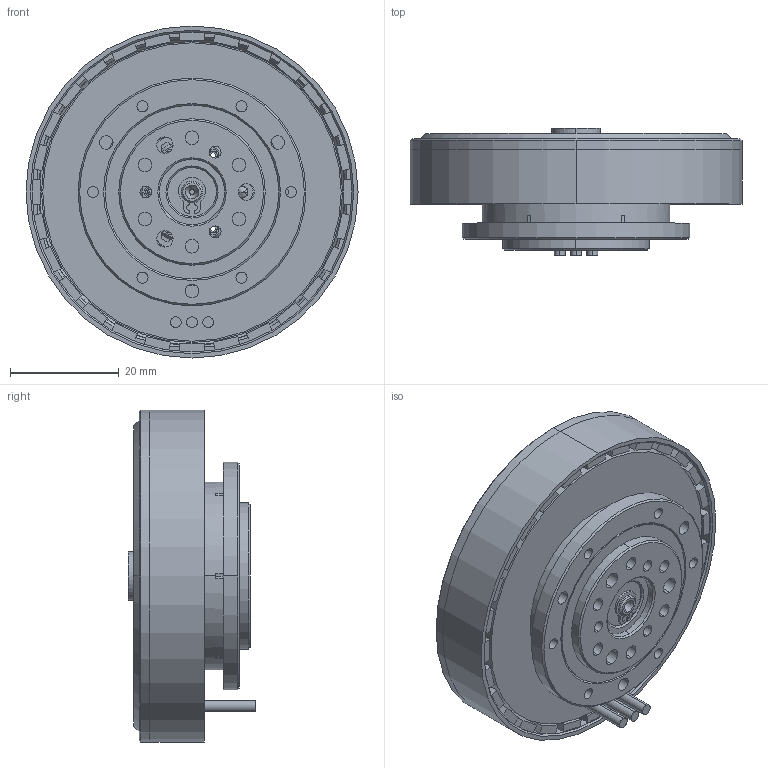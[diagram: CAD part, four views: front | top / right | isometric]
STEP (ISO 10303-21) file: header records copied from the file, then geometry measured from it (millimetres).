
FILE_DESCRIPTION (( 'STEP AP203' ), '1' );
FILE_NAME ('AKE50-8 KV110-A-20260427.STEP', '2026-04-27T06:09:00', ( '微软用户' ), ( '微软中国' ), 'SwSTEP 2.0', 'SolidWorks 2020', '' );
FILE_SCHEMA (( 'CONFIG_CONTROL_DESIGN' ));
Length unit declared in the file: millimetre
Products named in the file (1): AKE50-8 KV110-A-20260427
Bounding box: 61.2 x 23.5 x 61.2 mm (x, y, z)
Surface area: 21323.4 mm2 (no closed solid volume)
Topology: 0 solids, 56 shells, 506 faces, 1496 edges, 1028 vertices
Faces by surface type: plane 239, cylinder 198, cone 63, bspline 6
Entity records: 17063 total; most frequent: CARTESIAN_POINT 3308, DIRECTION 3062, ORIENTED_EDGE 2435, EDGE_CURVE 1490, AXIS2_PLACEMENT_3D 1102, VERTEX_POINT 1028, LINE 858, VECTOR 858
